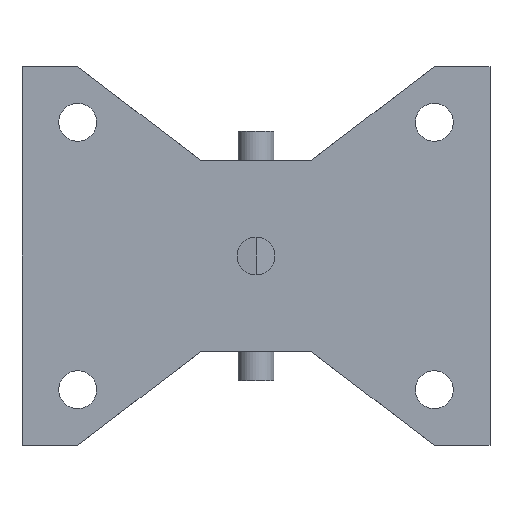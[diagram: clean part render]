
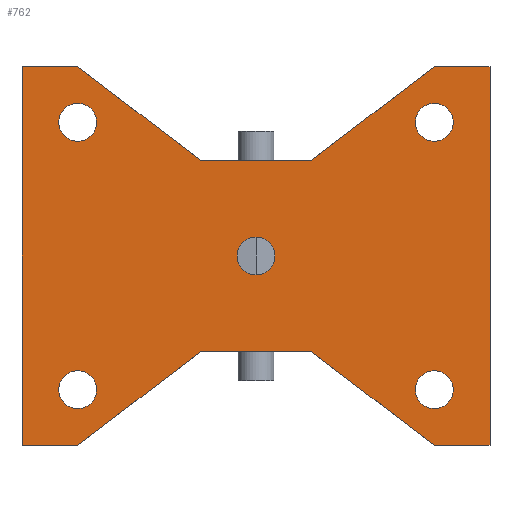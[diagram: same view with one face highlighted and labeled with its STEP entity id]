
A CAD part, front view. The second image highlights one B-rep face of the part: STEP entity #762.
In plain terms, the highlighted planar face has unit normal (0, -1, 0).
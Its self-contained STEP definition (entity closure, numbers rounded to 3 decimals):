
#1=DIRECTION('',(-0.795,0.,-0.607));
#2=VECTOR('',#1,34.601);
#3=CARTESIAN_POINT('',(-12.5,0.,-21.5));
#4=LINE('',#3,#2);
#5=DIRECTION('',(-1.,0.,0.));
#6=VECTOR('',#5,12.5);
#7=CARTESIAN_POINT('',(-40.,0.,-42.5));
#8=LINE('',#7,#6);
#9=DIRECTION('',(0.,0.,1.));
#10=VECTOR('',#9,85.);
#11=CARTESIAN_POINT('',(-52.5,0.,-42.5));
#12=LINE('',#11,#10);
#13=DIRECTION('',(1.,0.,0.));
#14=VECTOR('',#13,12.5);
#15=CARTESIAN_POINT('',(-52.5,0.,42.5));
#16=LINE('',#15,#14);
#17=DIRECTION('',(0.795,0.,-0.607));
#18=VECTOR('',#17,34.601);
#19=CARTESIAN_POINT('',(-40.,0.,42.5));
#20=LINE('',#19,#18);
#21=DIRECTION('',(1.,0.,0.));
#22=VECTOR('',#21,25.);
#23=CARTESIAN_POINT('',(-12.5,0.,21.5));
#24=LINE('',#23,#22);
#25=DIRECTION('',(0.795,0.,0.607));
#26=VECTOR('',#25,34.601);
#27=CARTESIAN_POINT('',(12.5,0.,21.5));
#28=LINE('',#27,#26);
#29=DIRECTION('',(1.,0.,0.));
#30=VECTOR('',#29,12.5);
#31=CARTESIAN_POINT('',(40.,0.,42.5));
#32=LINE('',#31,#30);
#33=DIRECTION('',(0.,0.,-1.));
#34=VECTOR('',#33,85.);
#35=CARTESIAN_POINT('',(52.5,0.,42.5));
#36=LINE('',#35,#34);
#37=DIRECTION('',(-1.,0.,0.));
#38=VECTOR('',#37,12.5);
#39=CARTESIAN_POINT('',(52.5,0.,-42.5));
#40=LINE('',#39,#38);
#41=DIRECTION('',(-0.795,0.,0.607));
#42=VECTOR('',#41,34.601);
#43=CARTESIAN_POINT('',(40.,0.,-42.5));
#44=LINE('',#43,#42);
#45=DIRECTION('',(-1.,0.,0.));
#46=VECTOR('',#45,25.);
#47=CARTESIAN_POINT('',(12.5,0.,-21.5));
#48=LINE('',#47,#46);
#49=CARTESIAN_POINT('',(40.,0.,-30.));
#50=DIRECTION('',(0.,1.,0.));
#51=DIRECTION('',(1.,0.,0.));
#52=AXIS2_PLACEMENT_3D('',#49,#50,#51);
#54=CARTESIAN_POINT('',(40.,0.,-30.));
#55=DIRECTION('',(0.,1.,0.));
#56=DIRECTION('',(-1.,0.,0.));
#57=AXIS2_PLACEMENT_3D('',#54,#55,#56);
#59=CARTESIAN_POINT('',(0.,0.,0.));
#60=DIRECTION('',(0.,1.,0.));
#61=DIRECTION('',(1.,0.,0.));
#62=AXIS2_PLACEMENT_3D('',#59,#60,#61);
#64=CARTESIAN_POINT('',(0.,0.,0.));
#65=DIRECTION('',(0.,1.,0.));
#66=DIRECTION('',(-1.,0.,0.));
#67=AXIS2_PLACEMENT_3D('',#64,#65,#66);
#69=CARTESIAN_POINT('',(40.,0.,30.));
#70=DIRECTION('',(0.,1.,0.));
#71=DIRECTION('',(1.,0.,0.));
#72=AXIS2_PLACEMENT_3D('',#69,#70,#71);
#74=CARTESIAN_POINT('',(40.,0.,30.));
#75=DIRECTION('',(0.,1.,0.));
#76=DIRECTION('',(-1.,0.,0.));
#77=AXIS2_PLACEMENT_3D('',#74,#75,#76);
#79=CARTESIAN_POINT('',(-40.,0.,-30.));
#80=DIRECTION('',(0.,1.,0.));
#81=DIRECTION('',(1.,0.,0.));
#82=AXIS2_PLACEMENT_3D('',#79,#80,#81);
#84=CARTESIAN_POINT('',(-40.,0.,-30.));
#85=DIRECTION('',(0.,1.,0.));
#86=DIRECTION('',(-1.,0.,0.));
#87=AXIS2_PLACEMENT_3D('',#84,#85,#86);
#89=CARTESIAN_POINT('',(-40.,0.,30.));
#90=DIRECTION('',(0.,1.,0.));
#91=DIRECTION('',(1.,0.,0.));
#92=AXIS2_PLACEMENT_3D('',#89,#90,#91);
#94=CARTESIAN_POINT('',(-40.,0.,30.));
#95=DIRECTION('',(0.,1.,0.));
#96=DIRECTION('',(-1.,0.,0.));
#97=AXIS2_PLACEMENT_3D('',#94,#95,#96);
#533=CARTESIAN_POINT('',(-12.5,0.,-21.5));
#534=CARTESIAN_POINT('',(-40.,0.,-42.5));
#535=VERTEX_POINT('',#533);
#536=VERTEX_POINT('',#534);
#537=CARTESIAN_POINT('',(-52.5,0.,-42.5));
#538=VERTEX_POINT('',#537);
#539=CARTESIAN_POINT('',(-52.5,0.,42.5));
#540=VERTEX_POINT('',#539);
#541=CARTESIAN_POINT('',(-40.,0.,42.5));
#542=VERTEX_POINT('',#541);
#543=CARTESIAN_POINT('',(-12.5,0.,21.5));
#544=VERTEX_POINT('',#543);
#545=CARTESIAN_POINT('',(12.5,0.,21.5));
#546=VERTEX_POINT('',#545);
#547=CARTESIAN_POINT('',(40.,0.,42.5));
#548=VERTEX_POINT('',#547);
#549=CARTESIAN_POINT('',(52.5,0.,42.5));
#550=VERTEX_POINT('',#549);
#551=CARTESIAN_POINT('',(52.5,0.,-42.5));
#552=VERTEX_POINT('',#551);
#553=CARTESIAN_POINT('',(40.,0.,-42.5));
#554=VERTEX_POINT('',#553);
#555=CARTESIAN_POINT('',(12.5,0.,-21.5));
#556=VERTEX_POINT('',#555);
#661=CARTESIAN_POINT('',(44.25,0.,-30.));
#662=CARTESIAN_POINT('',(35.75,0.,-30.));
#663=VERTEX_POINT('',#661);
#664=VERTEX_POINT('',#662);
#665=CARTESIAN_POINT('',(4.25,0.,0.));
#666=CARTESIAN_POINT('',(-4.25,0.,0.));
#667=VERTEX_POINT('',#665);
#668=VERTEX_POINT('',#666);
#669=CARTESIAN_POINT('',(44.25,0.,30.));
#670=CARTESIAN_POINT('',(35.75,0.,30.));
#671=VERTEX_POINT('',#669);
#672=VERTEX_POINT('',#670);
#673=CARTESIAN_POINT('',(-35.75,0.,-30.));
#674=CARTESIAN_POINT('',(-44.25,0.,-30.));
#675=VERTEX_POINT('',#673);
#676=VERTEX_POINT('',#674);
#677=CARTESIAN_POINT('',(-35.75,0.,30.));
#678=CARTESIAN_POINT('',(-44.25,0.,30.));
#679=VERTEX_POINT('',#677);
#680=VERTEX_POINT('',#678);
#701=CARTESIAN_POINT('',(0.,0.,0.));
#702=DIRECTION('',(0.,1.,0.));
#703=DIRECTION('',(1.,0.,0.));
#704=AXIS2_PLACEMENT_3D('',#701,#702,#703);
#705=PLANE('',#704);
#707=ORIENTED_EDGE('',*,*,#706,.T.);
#709=ORIENTED_EDGE('',*,*,#708,.T.);
#711=ORIENTED_EDGE('',*,*,#710,.T.);
#713=ORIENTED_EDGE('',*,*,#712,.T.);
#715=ORIENTED_EDGE('',*,*,#714,.T.);
#717=ORIENTED_EDGE('',*,*,#716,.T.);
#719=ORIENTED_EDGE('',*,*,#718,.T.);
#721=ORIENTED_EDGE('',*,*,#720,.T.);
#723=ORIENTED_EDGE('',*,*,#722,.T.);
#725=ORIENTED_EDGE('',*,*,#724,.T.);
#727=ORIENTED_EDGE('',*,*,#726,.T.);
#729=ORIENTED_EDGE('',*,*,#728,.T.);
#730=EDGE_LOOP('',(#707,#709,#711,#713,#715,#717,#719,#721,#723,#725,#727,
#729));
#731=FACE_OUTER_BOUND('',#730,.F.);
#733=ORIENTED_EDGE('',*,*,#732,.F.);
#735=ORIENTED_EDGE('',*,*,#734,.F.);
#736=EDGE_LOOP('',(#733,#735));
#737=FACE_BOUND('',#736,.F.);
#739=ORIENTED_EDGE('',*,*,#738,.F.);
#741=ORIENTED_EDGE('',*,*,#740,.F.);
#742=EDGE_LOOP('',(#739,#741));
#743=FACE_BOUND('',#742,.F.);
#745=ORIENTED_EDGE('',*,*,#744,.F.);
#747=ORIENTED_EDGE('',*,*,#746,.F.);
#748=EDGE_LOOP('',(#745,#747));
#749=FACE_BOUND('',#748,.F.);
#751=ORIENTED_EDGE('',*,*,#750,.F.);
#753=ORIENTED_EDGE('',*,*,#752,.F.);
#754=EDGE_LOOP('',(#751,#753));
#755=FACE_BOUND('',#754,.F.);
#757=ORIENTED_EDGE('',*,*,#756,.F.);
#759=ORIENTED_EDGE('',*,*,#758,.F.);
#760=EDGE_LOOP('',(#757,#759));
#761=FACE_BOUND('',#760,.F.);
#762=ADVANCED_FACE('',(#731,#737,#743,#749,#755,#761),#705,.F.);
#53=CIRCLE('',#52,4.25);
#58=CIRCLE('',#57,4.25);
#63=CIRCLE('',#62,4.25);
#68=CIRCLE('',#67,4.25);
#73=CIRCLE('',#72,4.25);
#78=CIRCLE('',#77,4.25);
#83=CIRCLE('',#82,4.25);
#88=CIRCLE('',#87,4.25);
#93=CIRCLE('',#92,4.25);
#98=CIRCLE('',#97,4.25);
#706=EDGE_CURVE('',#535,#536,#4,.T.);
#708=EDGE_CURVE('',#536,#538,#8,.T.);
#710=EDGE_CURVE('',#538,#540,#12,.T.);
#712=EDGE_CURVE('',#540,#542,#16,.T.);
#714=EDGE_CURVE('',#542,#544,#20,.T.);
#716=EDGE_CURVE('',#544,#546,#24,.T.);
#718=EDGE_CURVE('',#546,#548,#28,.T.);
#720=EDGE_CURVE('',#548,#550,#32,.T.);
#722=EDGE_CURVE('',#550,#552,#36,.T.);
#724=EDGE_CURVE('',#552,#554,#40,.T.);
#726=EDGE_CURVE('',#554,#556,#44,.T.);
#728=EDGE_CURVE('',#556,#535,#48,.T.);
#732=EDGE_CURVE('',#663,#664,#53,.T.);
#734=EDGE_CURVE('',#664,#663,#58,.T.);
#738=EDGE_CURVE('',#667,#668,#63,.T.);
#740=EDGE_CURVE('',#668,#667,#68,.T.);
#744=EDGE_CURVE('',#671,#672,#73,.T.);
#746=EDGE_CURVE('',#672,#671,#78,.T.);
#750=EDGE_CURVE('',#675,#676,#83,.T.);
#752=EDGE_CURVE('',#676,#675,#88,.T.);
#756=EDGE_CURVE('',#679,#680,#93,.T.);
#758=EDGE_CURVE('',#680,#679,#98,.T.);
